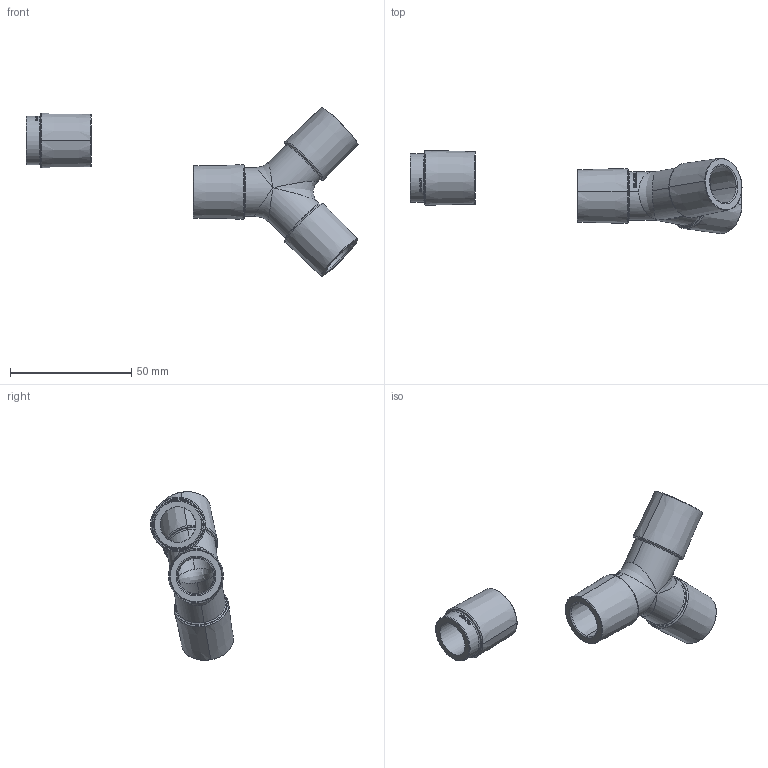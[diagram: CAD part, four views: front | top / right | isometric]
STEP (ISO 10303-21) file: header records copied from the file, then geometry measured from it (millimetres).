
FILE_DESCRIPTION(/* description */ (''),/* implementation_level */ '2;1');
FILE_NAME(/* name */ 'ISO 5356 M22 F15_GgCV19.stp',/* time_stamp */ '2020-03-27T12:53:20+01:00',/* author */ (''),/* organization */ (''),/* preprocessor_version */ 'ST-DEVELOPER v16.7',/* originating_system */ 'SIEMENS PLM Software NX 12.0',/* authorisation */ '');
FILE_SCHEMA (('AUTOMOTIVE_DESIGN { 1 0 10303 214 3 1 1 1 }'));
Length unit declared in the file: millimetre
Products named in the file (1): ISO5356 - copia
Bounding box: 137.02 x 34.26 x 69.63 mm (x, y, z)
Volume: 23929 mm3; surface area: 15563.9 mm2
Topology: 2 solids, 2 shells, 362 faces, 929 edges, 601 vertices
Faces by surface type: plane 204, extrusion 75, torus 41, cylinder 20, cone 16, bspline 6
Full cylindrical faces by diameter (mm): 14.67 x1, 20 x1
Entity records: 15810 total; most frequent: CARTESIAN_POINT 7714, ORIENTED_EDGE 1826, DIRECTION 1330, EDGE_CURVE 913, VERTEX_POINT 602, B_SPLINE_CURVE_WITH_KNOTS 494, AXIS2_PLACEMENT_3D 479, EDGE_LOOP 415
